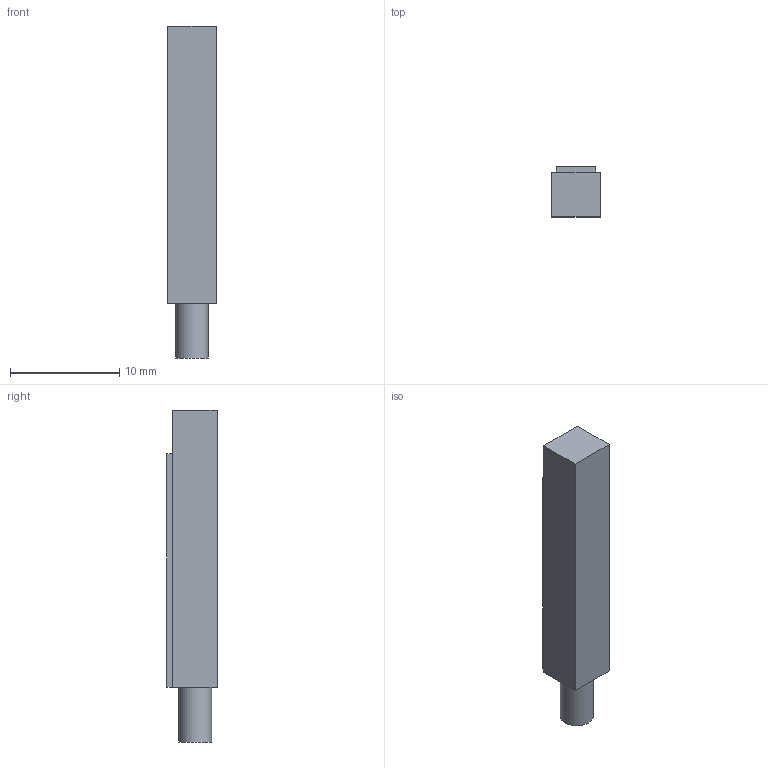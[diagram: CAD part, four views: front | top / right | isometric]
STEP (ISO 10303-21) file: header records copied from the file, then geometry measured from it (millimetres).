
FILE_DESCRIPTION( ( 'STEP AP214' ), '1' );
FILE_NAME( 'C:/Users/emc02044/Desktop/感应开关/HX-01-R-2M.stp', '2026-08-20T03:43:11', ( 'License CC BY-ND 4.0' ), ( 'CADENAS' ), ' ', 'PARTsolutions', ' ' );
FILE_SCHEMA( ( 'AUTOMOTIVE_DESIGN { 1 0 10303 214 1 1 1 1 }' ) );
Length unit declared in the file: millimetre
Products named in the file (1): _HX-01-R-2M
Bounding box: 4.4 x 4.6 x 30.4 mm (x, y, z)
Volume: 527 mm3; surface area: 551.3 mm2
Topology: 1 solids, 1 shells, 25 faces, 61 edges, 41 vertices
Faces by surface type: plane 21, torus 2, cylinder 2
Full cylindrical faces by diameter (mm): 2 x1, 3 x1
Entity records: 932 total; most frequent: CARTESIAN_POINT 142, DIRECTION 114, ORIENTED_EDGE 114, EDGE_CURVE 57, LINE 44, VECTOR 44, VERTEX_POINT 39, AXIS2_PLACEMENT_3D 35
